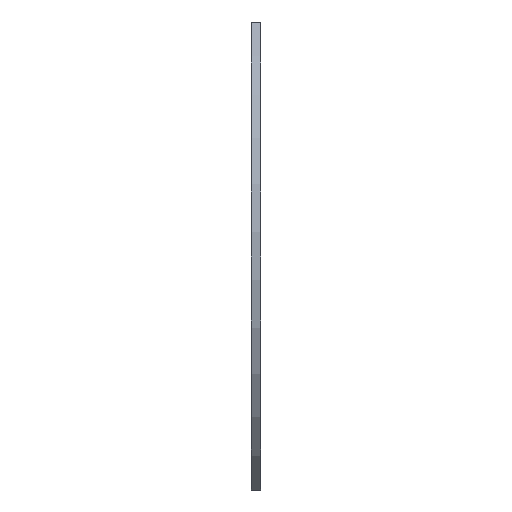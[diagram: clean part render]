
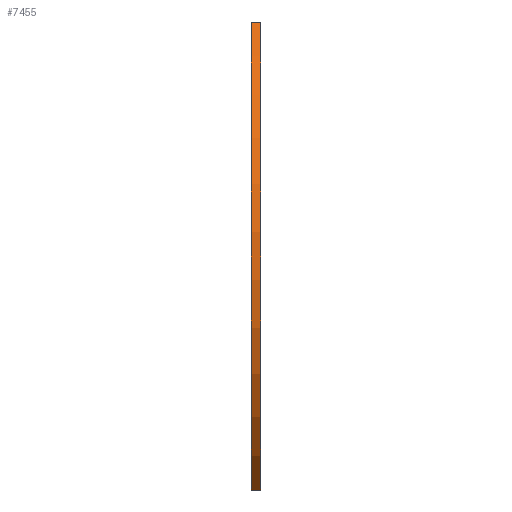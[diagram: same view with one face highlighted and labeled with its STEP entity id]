
A CAD part, left-side view. The second image highlights one B-rep face of the part: STEP entity #7455.
In plain terms, the highlighted cylindrical face has radius 100 mm (diameter 200 mm), a partial arc.
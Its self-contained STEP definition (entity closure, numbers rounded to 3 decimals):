
#208 = VERTEX_POINT('',#209);
#209 = CARTESIAN_POINT('',(-63.804,0.,-77.));
#215 = EDGE_CURVE('',#216,#208,#218,.T.);
#216 = VERTEX_POINT('',#217);
#217 = CARTESIAN_POINT('',(-63.804,0.,77.));
#218 = CIRCLE('',#219,100.);
#219 = AXIS2_PLACEMENT_3D('',#220,#221,#222);
#220 = CARTESIAN_POINT('',(0.,0.,0.));
#221 = DIRECTION('',(0.,-1.,0.));
#222 = DIRECTION('',(1.,0.,0.));
#1742 = VERTEX_POINT('',#1743);
#1743 = CARTESIAN_POINT('',(-63.804,-3.,-77.));
#1749 = EDGE_CURVE('',#1750,#1742,#1752,.T.);
#1750 = VERTEX_POINT('',#1751);
#1751 = CARTESIAN_POINT('',(-63.804,-3.,77.));
#1752 = CIRCLE('',#1753,100.);
#1753 = AXIS2_PLACEMENT_3D('',#1754,#1755,#1756);
#1754 = CARTESIAN_POINT('',(0.,-3.,0.));
#1755 = DIRECTION('',(0.,-1.,0.));
#1756 = DIRECTION('',(1.,0.,0.));
#7425 = EDGE_CURVE('',#208,#1742,#7426,.T.);
#7426 = LINE('',#7427,#7428);
#7427 = CARTESIAN_POINT('',(-63.804,0.,-77.));
#7428 = VECTOR('',#7429,1.);
#7429 = DIRECTION('',(0.,-1.,0.));
#7455 = ADVANCED_FACE('',(#7456),#7467,.T.);
#7456 = FACE_BOUND('',#7457,.F.);
#7457 = EDGE_LOOP('',(#7458,#7464,#7465,#7466));
#7458 = ORIENTED_EDGE('',*,*,#7459,.T.);
#7459 = EDGE_CURVE('',#216,#1750,#7460,.T.);
#7460 = LINE('',#7461,#7462);
#7461 = CARTESIAN_POINT('',(-63.804,0.,77.));
#7462 = VECTOR('',#7463,1.);
#7463 = DIRECTION('',(0.,-1.,0.));
#7464 = ORIENTED_EDGE('',*,*,#1749,.T.);
#7465 = ORIENTED_EDGE('',*,*,#7425,.F.);
#7466 = ORIENTED_EDGE('',*,*,#215,.F.);
#7467 = CYLINDRICAL_SURFACE('',#7468,100.);
#7468 = AXIS2_PLACEMENT_3D('',#7469,#7470,#7471);
#7469 = CARTESIAN_POINT('',(0.,0.,0.));
#7470 = DIRECTION('',(0.,1.,0.));
#7471 = DIRECTION('',(1.,0.,0.));
